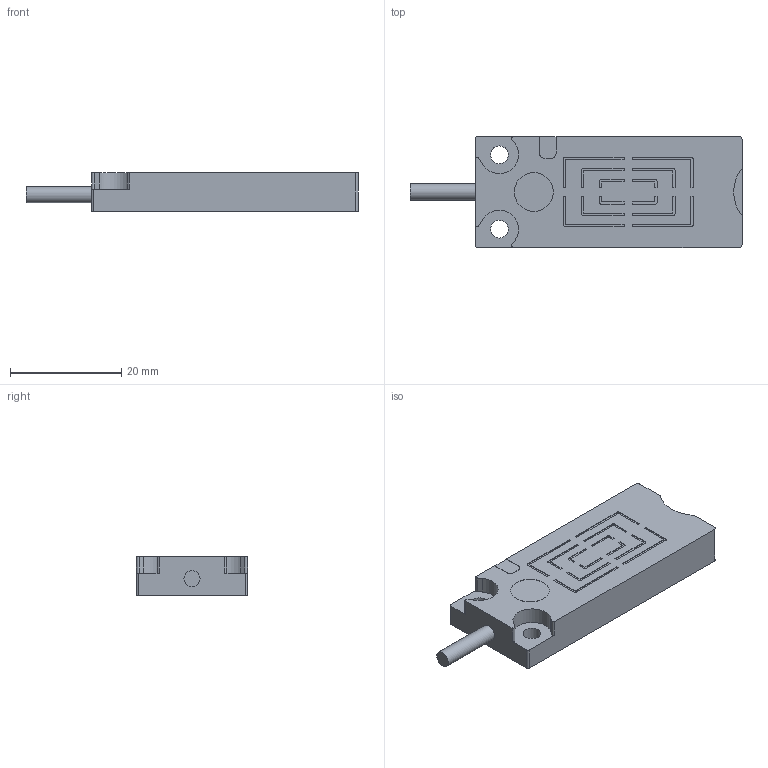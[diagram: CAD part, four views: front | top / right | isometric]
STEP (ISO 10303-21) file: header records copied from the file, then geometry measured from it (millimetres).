
FILE_DESCRIPTION( ( 'STEP AP203' ), ' ' );
FILE_NAME( 'p:/temp/worker_213/4620_3736/app_49_02015111712405586252923192d056f_000000_00_00_000000/format_4/KQ5101.stp', '2015-11-17T11:40:56', ( '' ), ( '' ), ' ', 'PARTsolutions', ' ' );
FILE_SCHEMA( ( 'CONFIG_CONTROL_DESIGN' ) );
Length unit declared in the file: millimetre
Products named in the file (1): _KQ5101
Bounding box: 59.8 x 20 x 7 mm (x, y, z)
Volume: 6372.5 mm3; surface area: 3089.2 mm2
Topology: 1 solids, 1 shells, 151 faces, 402 edges, 268 vertices
Faces by surface type: plane 114, cylinder 37
Full cylindrical faces by diameter (mm): 2.9 x1, 3.2 x2, 7 x1
Entity records: 4702 total; most frequent: CARTESIAN_POINT 818, ORIENTED_EDGE 796, DIRECTION 776, EDGE_CURVE 398, LINE 324, VECTOR 324, VERTEX_POINT 268, AXIS2_PLACEMENT_3D 226
